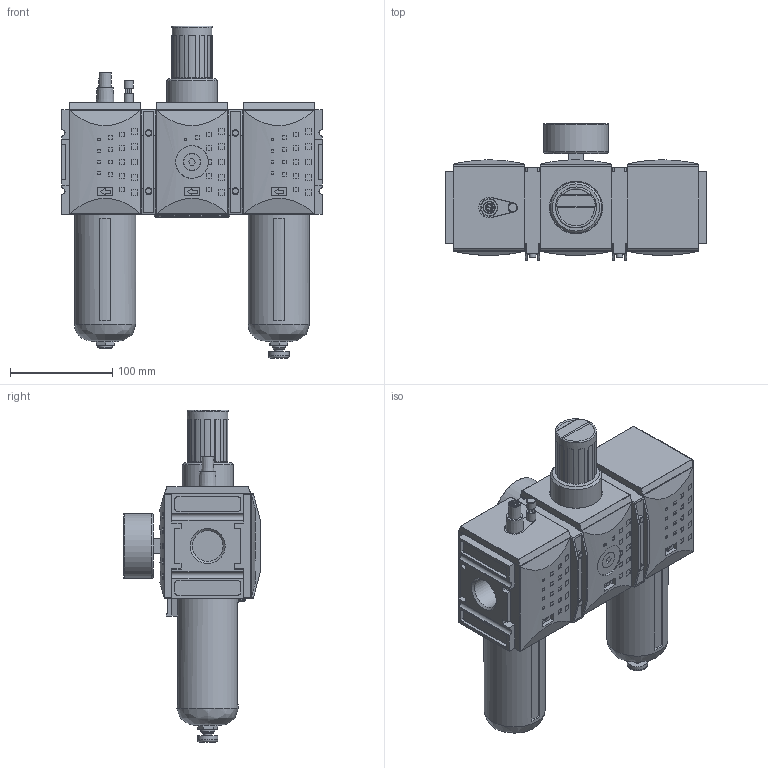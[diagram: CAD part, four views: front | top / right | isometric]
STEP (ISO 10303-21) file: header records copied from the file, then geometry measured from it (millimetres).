
FILE_DESCRIPTION((''),'2;1');
FILE_NAME('K:\ZEICHNG\Kunden Modelle\FUTURA Steps\BG4\KS3U-41.stp','2010-02-10T11:39:39',('DDruske'),(''),'Autodesk Inventor 2009','Autodesk Inventor 2009','');
FILE_SCHEMA(('AUTOMOTIVE_DESIGN { 1 0 10303 214 1 1 1 1 }'));
Length unit declared in the file: millimetre
Products named in the file (1): Bauteil9
Bounding box: 255 x 133.61 x 324.9 mm (x, y, z)
Volume: 3313257.7 mm3; surface area: 301594.5 mm2
Topology: 19 solids, 19 shells, 1600 faces, 4085 edges, 2631 vertices
Faces by surface type: plane 892, cylinder 427, bspline 196, torus 41, sphere 24, cone 20
Full cylindrical faces by diameter (mm): 5.5 x2, 6.5 x4, 8 x2, 8.6 x1, 9 x2, 11.45 x1, 11.8 x4, 13 x1, 14 x1, 16.5 x2, 20 x1, 24.1 x2, 27 x2, 30.291 x3, 32 x2, 35 x1, 40 x1, 50 x1, 57 x1, 60 x3, 63 x1, 74 x1
Entity records: 50364 total; most frequent: CARTESIAN_POINT 9984, DIRECTION 7937, ORIENTED_EDGE 7918, EDGE_CURVE 3959, VECTOR 2671, LINE 2671, AXIS2_PLACEMENT_3D 2633, VERTEX_POINT 2616
